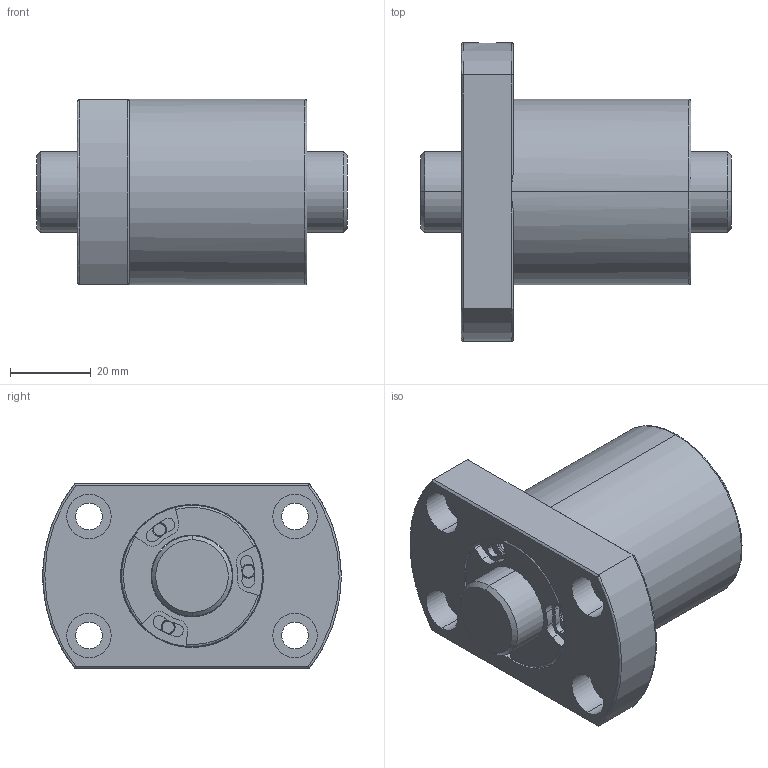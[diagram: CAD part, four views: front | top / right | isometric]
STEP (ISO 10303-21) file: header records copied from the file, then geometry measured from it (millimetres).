
FILE_DESCRIPTION (( 'STEP AP203' ), '1' );
FILE_NAME ('SFVSR02010C1D-C.STEP', '2020-06-17T05:04:38', ( '' ), ( '' ), 'SwSTEP 2.0', 'SolidWorks 2013', '' );
FILE_SCHEMA (( 'CONFIG_CONTROL_DESIGN' ));
Length unit declared in the file: millimetre
Products named in the file (1): SFVSR02010C1D-C
Bounding box: 77 x 74 x 46 mm (x, y, z)
Volume: 112292.2 mm3; surface area: 27979.5 mm2
Topology: 2 solids, 2 shells, 249 faces, 614 edges, 392 vertices
Faces by surface type: cylinder 136, plane 83, cone 16, bspline 14
Entity records: 8300 total; most frequent: CARTESIAN_POINT 2141, DIRECTION 1388, ORIENTED_EDGE 1228, EDGE_CURVE 614, AXIS2_PLACEMENT_3D 588, VERTEX_POINT 392, CIRCLE 352, EDGE_LOOP 286
